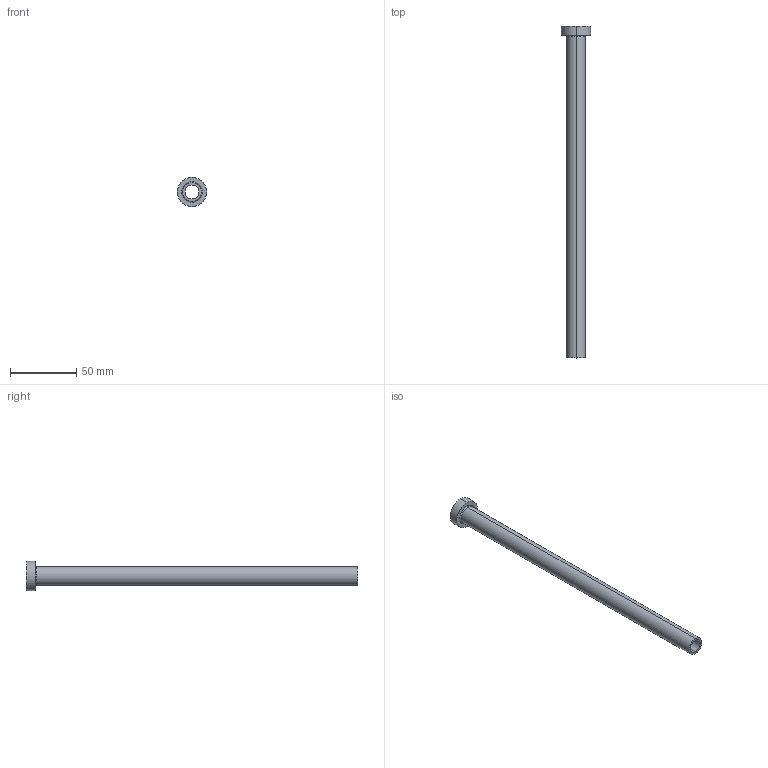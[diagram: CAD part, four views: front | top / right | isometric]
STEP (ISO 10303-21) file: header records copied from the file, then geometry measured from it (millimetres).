
FILE_DESCRIPTION (( 'STEP AP203' ), '1' );
FILE_NAME ('S14105-250.step', '2015-11-01T01:34:52', ( '' ), ( '' ), 'SwSTEP 2.0', 'SolidWorks 2009', '' );
FILE_SCHEMA (( 'CONFIG_CONTROL_DESIGN' ));
Length unit declared in the file: millimetre
Products named in the file (1): S14105-250
Bounding box: 22 x 250 x 22 mm (x, y, z)
Volume: 16776.8 mm3; surface area: 20281.8 mm2
Topology: 1 solids, 1 shells, 17 faces, 34 edges, 20 vertices
Faces by surface type: cylinder 8, cone 4, plane 3, torus 2
Entity records: 527 total; most frequent: DIRECTION 92, CARTESIAN_POINT 72, ORIENTED_EDGE 68, AXIS2_PLACEMENT_3D 40, EDGE_CURVE 34, CIRCLE 22, EDGE_LOOP 20, VERTEX_POINT 20
